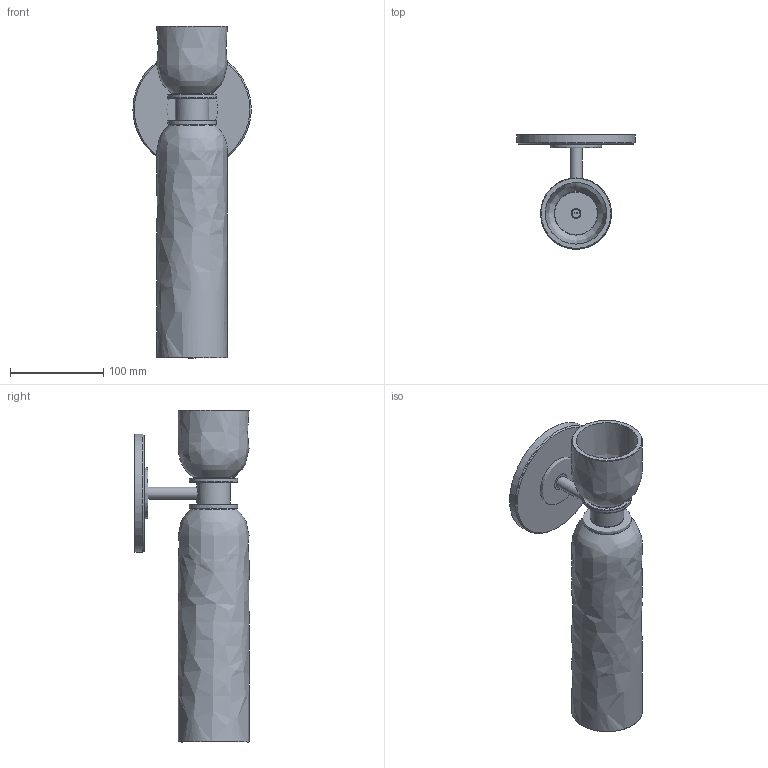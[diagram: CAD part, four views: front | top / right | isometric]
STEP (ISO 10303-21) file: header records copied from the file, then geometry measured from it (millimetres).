
FILE_DESCRIPTION(/* description */ (''),/* implementation_level */ '2;1');
FILE_NAME(/* name */ 'SkLO_AvroKO_UnionSconce_3D_LT630',/* time_stamp */ '2025-08-04T17:29:43+02:00',/* author */ (''),/* organization */ (''),/* preprocessor_version */ 'ST-DEVELOPER v16.5',/* originating_system */ 'Rhino 7.38',/* authorisation */ '');
FILE_SCHEMA (('CONFIG_CONTROL_DESIGN'));
Length unit declared in the file: millimetre
Products named in the file (1): Document
Bounding box: 126.89 x 122.5 x 356.48 mm (x, y, z)
Volume: 465965.6 mm3; surface area: 226176.5 mm2
Topology: 16 solids, 16 shells, 113 faces, 235 edges, 142 vertices
Faces by surface type: bspline 50, plane 36, cylinder 27
Full cylindrical faces by diameter (mm): 9.185 x5, 10.032 x1, 10.2 x2, 10.5 x1, 13 x3, 18.275 x1, 25 x1, 36 x3, 38 x2, 44 x1, 46 x1, 48 x1, 52 x1, 124 x1, 127 x1
Entity records: 19239 total; most frequent: CARTESIAN_POINT 17653, ORIENTED_EDGE 448, EDGE_CURVE 224, VERTEX_POINT 142, EDGE_LOOP 126, ADVANCED_FACE 113, FACE_OUTER_BOUND 113, B_SPLINE_CURVE_WITH_KNOTS 96
